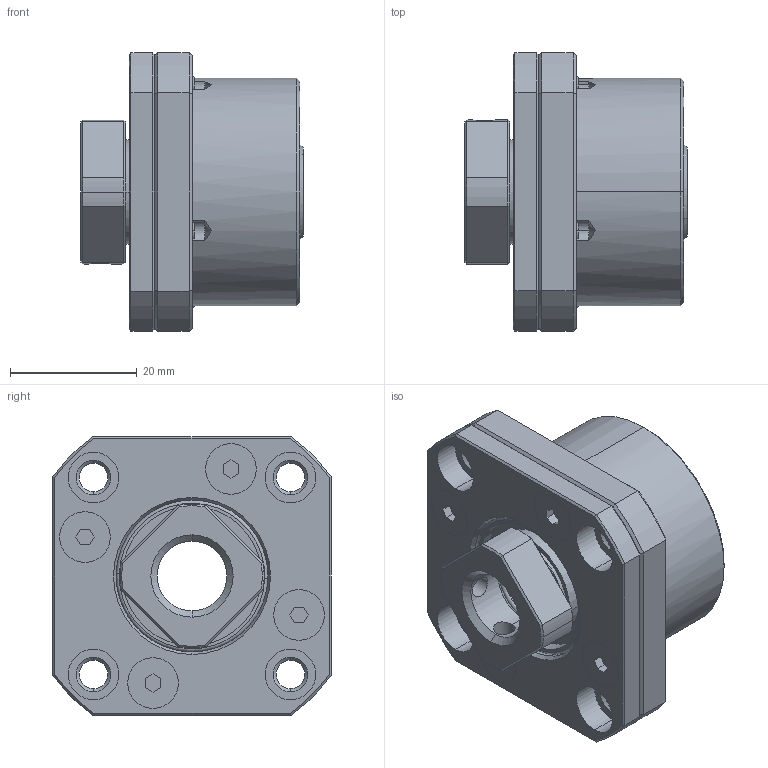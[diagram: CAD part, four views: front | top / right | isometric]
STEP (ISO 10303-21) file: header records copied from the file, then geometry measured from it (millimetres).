
FILE_DESCRIPTION (( 'STEP AP203' ), '1' );
FILE_NAME ('FK12²Õ¦XA.STEP', '2015-01-19T00:35:39', ( '' ), ( '' ), 'SwSTEP 2.0', 'SolidWorks 2014', '' );
FILE_SCHEMA (( 'CONFIG_CONTROL_DESIGN' ));
Length unit declared in the file: millimetre
Products named in the file (1): FK12組合A
Bounding box: 35.1 x 44 x 44 mm (x, y, z)
Volume: 28399.1 mm3; surface area: 24200.7 mm2
Topology: 39 solids, 39 shells, 475 faces, 1111 edges, 669 vertices
Faces by surface type: cylinder 123, cone 108, plane 104, torus 88, sphere 48, bspline 4
Entity records: 13201 total; most frequent: CARTESIAN_POINT 2662, DIRECTION 2426, ORIENTED_EDGE 1970, AXIS2_PLACEMENT_3D 1041, EDGE_CURVE 985, VERTEX_POINT 597, CIRCLE 569, EDGE_LOOP 542
